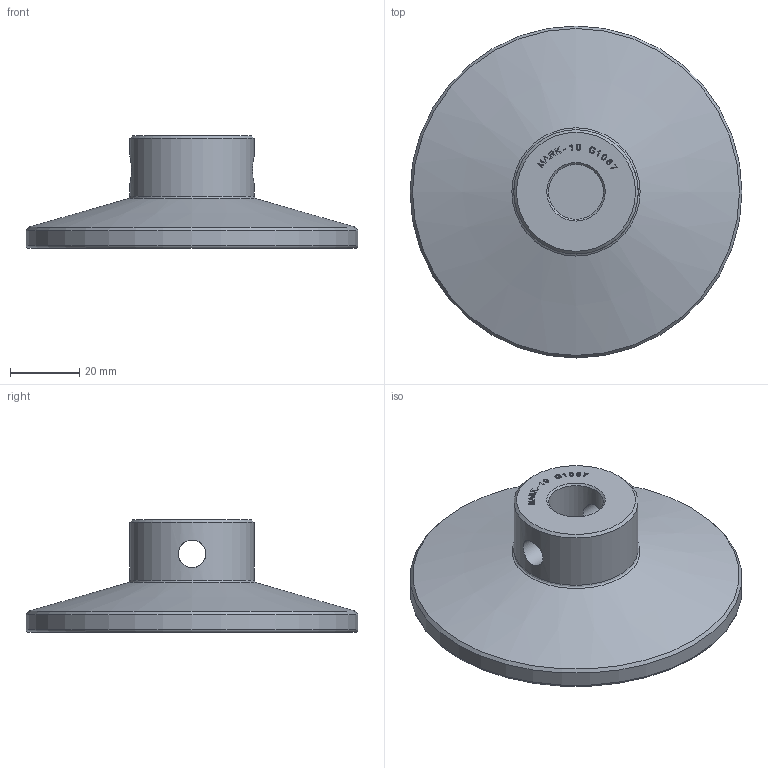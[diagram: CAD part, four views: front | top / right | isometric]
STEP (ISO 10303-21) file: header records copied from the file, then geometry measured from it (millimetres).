
FILE_DESCRIPTION((''),'2;1');
FILE_NAME('F:\CAD files\Itr\3D MARKETING MODELS\GRIPS\G1087\G1087.stp','2017-04-20T12:14:13',('mlampen'),(''),'Autodesk Inventor 2010','Autodesk Inventor 2010','');
FILE_SCHEMA(('AUTOMOTIVE_DESIGN { 1 0 10303 214 1 1 1 1 }'));
Length unit declared in the file: inch
Products named in the file (1): Part2
Bounding box: 96.01 x 96.01 x 32.51 mm (x, y, z)
Volume: 86408.1 mm3; surface area: 20145.7 mm2
Topology: 1 solids, 1 shells, 544 faces, 1543 edges, 1028 vertices
Faces by surface type: plane 525, cylinder 13, cone 4, bspline 1, torus 1
Full cylindrical faces by diameter (mm): 8.001 x2, 15.9 x1, 18.923 x1, 19.939 x1, 35.941 x1, 38.862 x1, 39.878 x1, 58.801 x1, 59.817 x1, 78.74 x1, 79.756 x1, 96.012 x1
Entity records: 17367 total; most frequent: CARTESIAN_POINT 3267, ORIENTED_EDGE 3040, DIRECTION 2630, EDGE_CURVE 1520, VECTOR 1488, LINE 1488, VERTEX_POINT 1024, EDGE_LOOP 594
